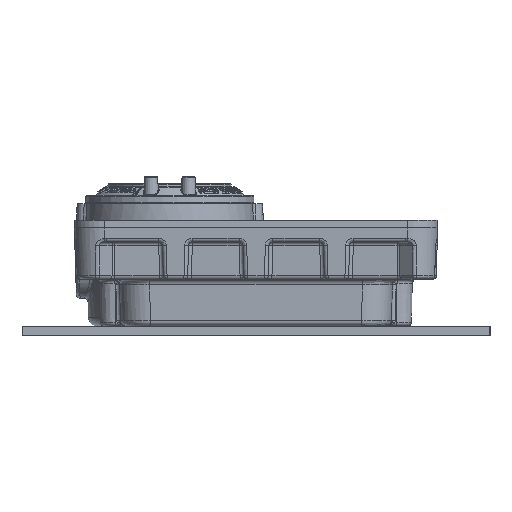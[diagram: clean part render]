
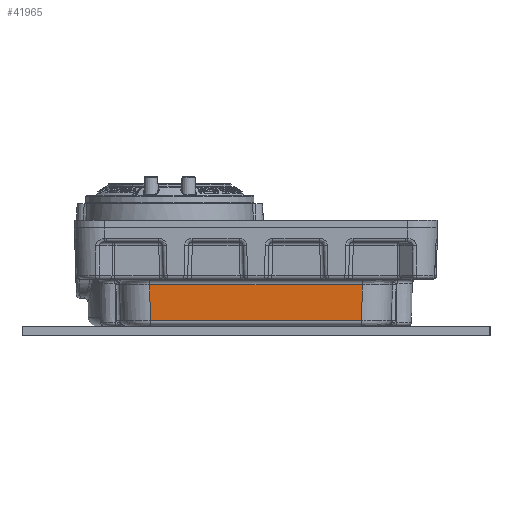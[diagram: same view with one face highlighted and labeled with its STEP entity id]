
A CAD part, left-side view. The second image highlights one B-rep face of the part: STEP entity #41965.
In plain terms, the highlighted planar face has unit normal (-1, 0, -0.026).
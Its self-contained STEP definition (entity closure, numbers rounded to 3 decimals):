
#18844=CARTESIAN_POINT('',(-172.861,56.866,-33.421));
#18845=VERTEX_POINT('',#18844);
#18870=CARTESIAN_POINT('',(-172.359,56.364,-52.579));
#18871=VERTEX_POINT('',#18870);
#18879=CARTESIAN_POINT('',(-172.359,56.364,-52.579));
#18880=DIRECTION('',(-0.026,0.026,0.999));
#18881=VECTOR('',#18880,19.17);
#18882=LINE('',#18879,#18881);
#18883=EDGE_CURVE('',#18871,#18845,#18882,.T.);
#19634=CARTESIAN_POINT('',(-172.359,-56.364,-52.579));
#19635=VERTEX_POINT('',#19634);
#19669=CARTESIAN_POINT('',(-172.861,-56.866,-33.421));
#19670=VERTEX_POINT('',#19669);
#19678=CARTESIAN_POINT('',(-172.861,-56.866,-33.421));
#19679=DIRECTION('',(0.026,0.026,-0.999));
#19680=VECTOR('',#19679,19.17);
#19681=LINE('',#19678,#19680);
#19682=EDGE_CURVE('',#19670,#19635,#19681,.T.);
#41940=CARTESIAN_POINT('',(-172.359,-56.364,-52.579));
#41941=DIRECTION('',(0.0,1.0,0.0));
#41942=VECTOR('',#41941,112.729);
#41943=LINE('',#41940,#41942);
#41944=EDGE_CURVE('',#19635,#18871,#41943,.T.);
#41949=CARTESIAN_POINT('',(-172.282,-72.282,-55.5));
#41950=DIRECTION('',(-1.,0.0,-0.026));
#41951=DIRECTION('',(0.0,-1.0,0.0));
#41952=AXIS2_PLACEMENT_3D('',#41949,#41950,#41951);
#41953=PLANE('',#41952);
#41954=ORIENTED_EDGE('',*,*,#41944,.F.);
#41955=ORIENTED_EDGE('',*,*,#19682,.F.);
#41956=CARTESIAN_POINT('',(-172.861,56.866,-33.421));
#41957=DIRECTION('',(0.0,-1.0,0.0));
#41958=VECTOR('',#41957,113.732);
#41959=LINE('',#41956,#41958);
#41960=EDGE_CURVE('',#18845,#19670,#41959,.T.);
#41961=ORIENTED_EDGE('',*,*,#41960,.F.);
#41962=ORIENTED_EDGE('',*,*,#18883,.F.);
#41963=EDGE_LOOP('',(#41954,#41955,#41961,#41962));
#41964=FACE_OUTER_BOUND('',#41963,.T.);
#41965=ADVANCED_FACE('',(#41964),#41953,.T.);
